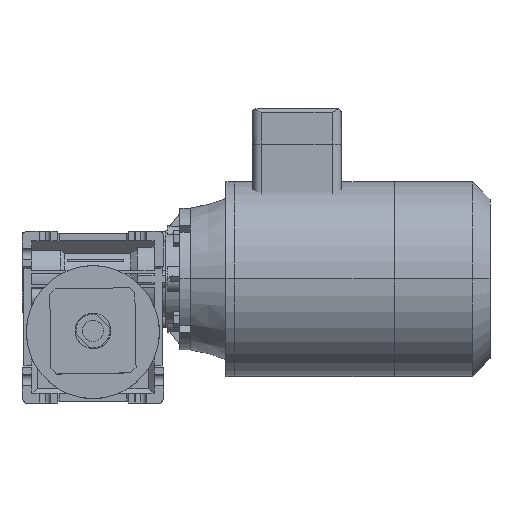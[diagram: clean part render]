
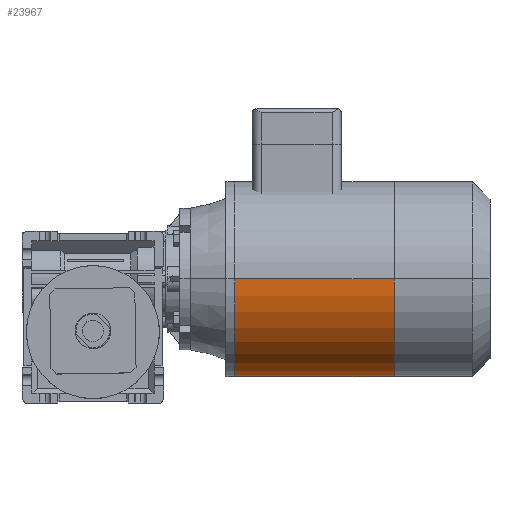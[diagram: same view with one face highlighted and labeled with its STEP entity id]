
A CAD part, top view. The second image highlights one B-rep face of the part: STEP entity #23967.
In plain terms, the highlighted cylindrical face has radius 55 mm (diameter 110 mm), a partial arc.
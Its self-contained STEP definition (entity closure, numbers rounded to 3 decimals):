
#1937 = EDGE_LOOP ( 'NONE', ( #31731, #35167, #35989, #37523 ) ) ;
#3870 = CIRCLE ( 'NONE', #34979, 55. ) ;
#3882 = VERTEX_POINT ( 'NONE', #19109 ) ;
#4018 = CARTESIAN_POINT ( 'NONE',  ( 144., 0., 55. ) ) ;
#7494 = CARTESIAN_POINT ( 'NONE',  ( 54.1, 0., -55. ) ) ;
#8813 = AXIS2_PLACEMENT_3D ( 'NONE', #20315, #16724, #31743 ) ;
#10602 = DIRECTION ( 'NONE',  ( -1., 0., 0. ) ) ;
#11875 = LINE ( 'NONE', #30603, #30615 ) ;
#12425 = FACE_OUTER_BOUND ( 'NONE', #1937, .T. ) ;
#13406 = VECTOR ( 'NONE', #15417, 1000. ) ;
#15417 = DIRECTION ( 'NONE',  ( -1., 0., 0. ) ) ;
#16519 = AXIS2_PLACEMENT_3D ( 'NONE', #33041, #10602, #36832 ) ;
#16527 = CYLINDRICAL_SURFACE ( 'NONE', #8813, 55. ) ;
#16724 = DIRECTION ( 'NONE',  ( -1., 0., 0. ) ) ;
#16956 = DIRECTION ( 'NONE',  ( 1., 0., 0. ) ) ;
#19109 = CARTESIAN_POINT ( 'NONE',  ( 54.1, 0., 55. ) ) ;
#20315 = CARTESIAN_POINT ( 'NONE',  ( 144., 0., 0. ) ) ;
#23967 = ADVANCED_FACE ( 'NONE', ( #12425 ), #16527, .T. ) ;
#25217 = VERTEX_POINT ( 'NONE', #37936 ) ;
#28195 = VERTEX_POINT ( 'NONE', #7494 ) ;
#30488 = EDGE_CURVE ( 'NONE', #3882, #28195, #3870, .T. ) ;
#30603 = CARTESIAN_POINT ( 'NONE',  ( 144., 0., -55. ) ) ;
#30615 = VECTOR ( 'NONE', #34342, 1000. ) ;
#31212 = CIRCLE ( 'NONE', #16519, 55. ) ;
#31731 = ORIENTED_EDGE ( 'NONE', *, *, #45598, .F. ) ;
#31743 = DIRECTION ( 'NONE',  ( 0., 0., 1. ) ) ;
#32143 = LINE ( 'NONE', #4018, #13406 ) ;
#33011 = VERTEX_POINT ( 'NONE', #35871 ) ;
#33041 = CARTESIAN_POINT ( 'NONE',  ( 144., 0., 0. ) ) ;
#34342 = DIRECTION ( 'NONE',  ( -1., 0., 0. ) ) ;
#34979 = AXIS2_PLACEMENT_3D ( 'NONE', #39319, #16956, #43094 ) ;
#35167 = ORIENTED_EDGE ( 'NONE', *, *, #45532, .T. ) ;
#35871 = CARTESIAN_POINT ( 'NONE',  ( 144., 0., 55. ) ) ;
#35989 = ORIENTED_EDGE ( 'NONE', *, *, #36523, .T. ) ;
#36523 = EDGE_CURVE ( 'NONE', #33011, #3882, #32143, .T. ) ;
#36832 = DIRECTION ( 'NONE',  ( 0., 0., 1. ) ) ;
#37523 = ORIENTED_EDGE ( 'NONE', *, *, #30488, .T. ) ;
#37936 = CARTESIAN_POINT ( 'NONE',  ( 144., 0., -55. ) ) ;
#39319 = CARTESIAN_POINT ( 'NONE',  ( 54.1, 0., 0. ) ) ;
#43094 = DIRECTION ( 'NONE',  ( 0., 0., 1. ) ) ;
#45532 = EDGE_CURVE ( 'NONE', #25217, #33011, #31212, .T. ) ;
#45598 = EDGE_CURVE ( 'NONE', #25217, #28195, #11875, .T. ) ;
